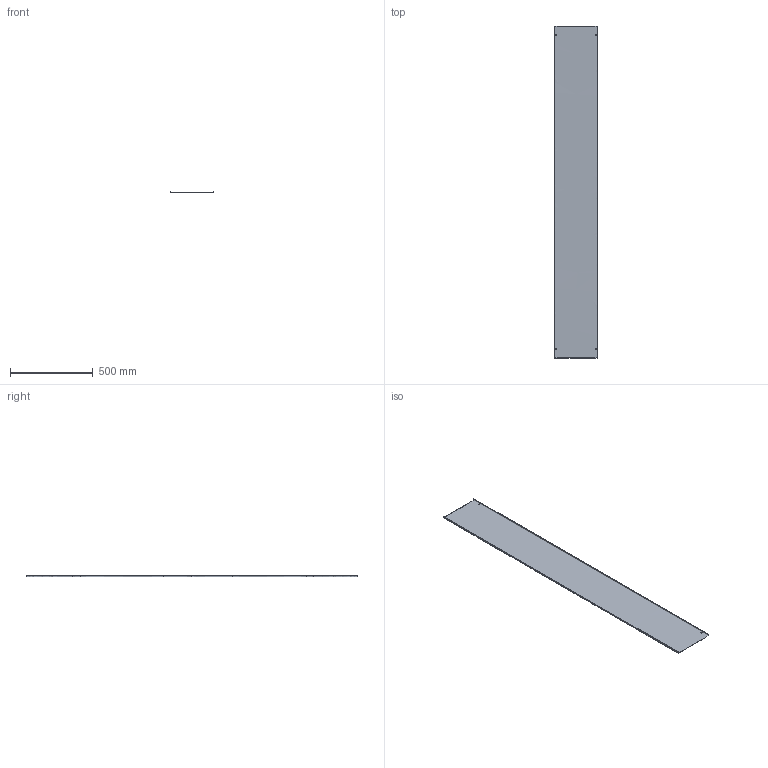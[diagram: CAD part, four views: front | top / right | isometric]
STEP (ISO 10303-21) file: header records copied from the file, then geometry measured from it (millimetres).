
FILE_DESCRIPTION(/* description */ (''),/* implementation_level */ '2;1');
FILE_NAME(/* name */ 'VZM250',/* time_stamp */ '2012-11-29T22:53:00+01:00',/* author */ (''),/* organization */ (''),/* preprocessor_version */ 'ST-DEVELOPER v10',/* originating_system */ '',/* authorisation */ '');
FILE_SCHEMA (('AUTOMOTIVE_DESIGN_CC2'));
Length unit declared in the file: millimetre
Products named in the file (1): 1
Bounding box: 261 x 2002 x 10.5 mm (x, y, z)
Surface area: 1098677.6 mm2 (no closed solid volume)
Topology: 0 solids, 22 shells, 22 faces, 120 edges, 120 vertices
Faces by surface type: plane 18, bspline 4
Entity records: 1488 total; most frequent: CARTESIAN_POINT 644, ORIENTED_EDGE 120, EDGE_CURVE 120, VERTEX_POINT 120, B_SPLINE_CURVE_WITH_KNOTS 104, EDGE_LOOP 30, COLOUR_RGB 22, FILL_AREA_STYLE_COLOUR 22
